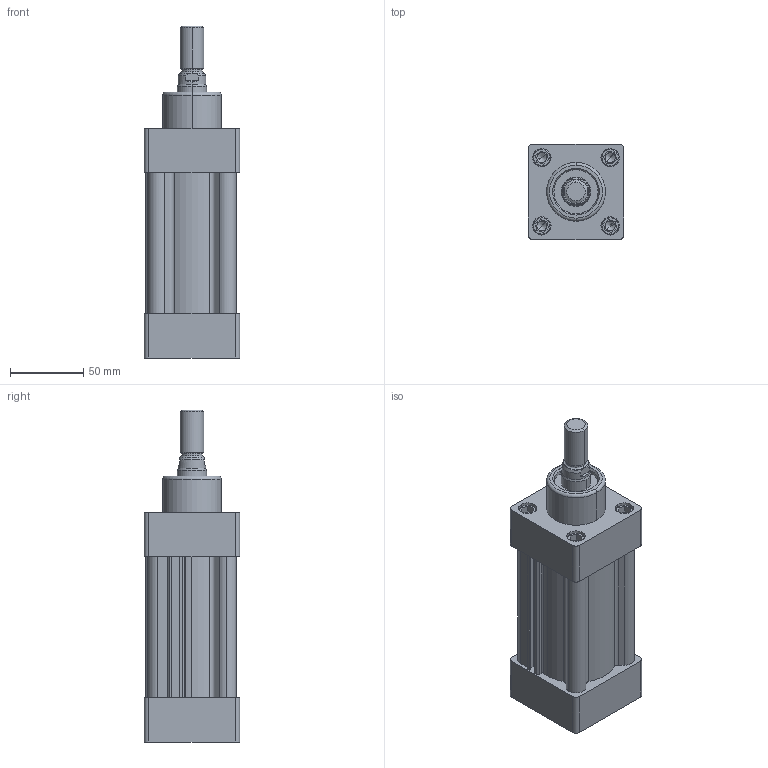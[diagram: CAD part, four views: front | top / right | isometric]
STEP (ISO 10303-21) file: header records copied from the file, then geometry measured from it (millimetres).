
FILE_DESCRIPTION (( 'STEP AP214' ), '1' );
FILE_NAME ('WSI-050-0050 (MDMY).STEP', '2016-07-14T15:03:27', ( 'Hidtek' ), ( '' ), 'SwSTEP 2.0', 'SolidWorks 2016', '' );
FILE_SCHEMA (( 'AUTOMOTIVE_DESIGN' ));
Length unit declared in the file: millimetre
Products named in the file (3): Group1^WSI-050-0050 (MDMY); WSI-050-0050 (MDMY); Group2^WSI-050-0050 (MDMY)
Assembly tree (2 placements, depth 2):
  WSI-050-0050 (MDMY)
    Group1^WSI-050-0050 (MDMY)
    Group2^WSI-050-0050 (MDMY)
Bounding box: 65 x 65 x 226 mm (x, y, z)
Volume: 491338.5 mm3; surface area: 120961.2 mm2
Topology: 12 solids, 12 shells, 394 faces, 950 edges, 604 vertices
Faces by surface type: plane 221, cylinder 111, cone 58, torus 4
Entity records: 12387 total; most frequent: CARTESIAN_POINT 2297, DIRECTION 1942, ORIENTED_EDGE 1868, EDGE_CURVE 934, AXIS2_PLACEMENT_3D 681, VERTEX_POINT 604, LINE 580, VECTOR 580
